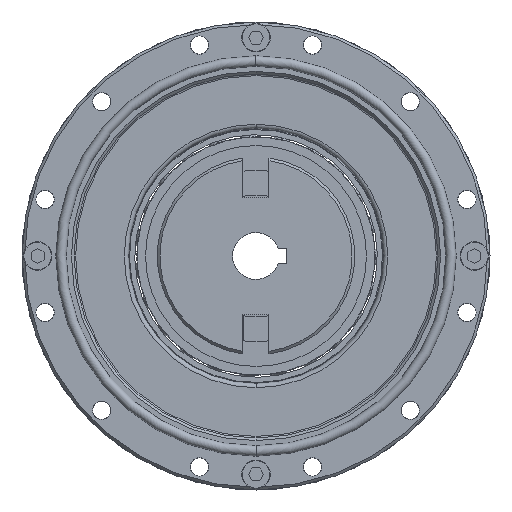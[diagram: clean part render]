
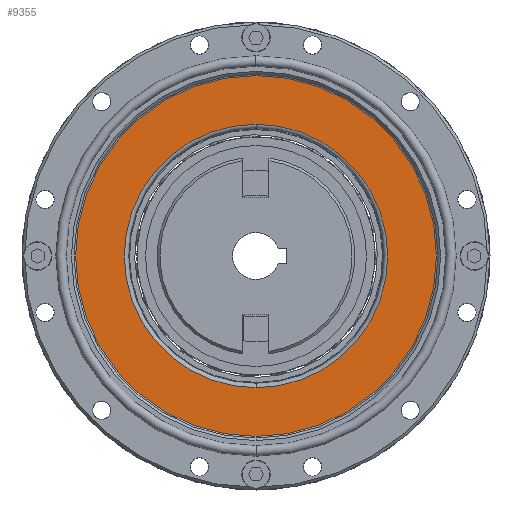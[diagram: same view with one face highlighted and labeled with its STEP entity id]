
A CAD part, left-side view. The second image highlights one B-rep face of the part: STEP entity #9355.
In plain terms, the highlighted planar face has unit normal (-1, 0, 0).
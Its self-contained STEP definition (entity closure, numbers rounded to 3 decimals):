
#1004 = AXIS2_PLACEMENT_3D ( 'NONE', #34702, #10286, #38770 ) ;
#1756 = ORIENTED_EDGE ( 'NONE', *, *, #23890, .F. ) ;
#3246 = VERTEX_POINT ( 'NONE', #14154 ) ;
#3488 = DIRECTION ( 'NONE',  ( 0., 0., -1. ) ) ;
#3552 = EDGE_LOOP ( 'NONE', ( #16050, #37272 ) ) ;
#4136 = AXIS2_PLACEMENT_3D ( 'NONE', #38291, #13903, #42411 ) ;
#4798 = CARTESIAN_POINT ( 'NONE',  ( -30.75, 0., 0. ) ) ;
#5271 = EDGE_CURVE ( 'NONE', #17951, #46394, #24208, .T. ) ;
#5738 = CARTESIAN_POINT ( 'NONE',  ( -30.75, 0., -34.7 ) ) ;
#8850 = DIRECTION ( 'NONE',  ( 0., 0., 1. ) ) ;
#9055 = CIRCLE ( 'NONE', #27177, 25.335 ) ;
#9355 = ADVANCED_FACE ( 'NONE', ( #40351, #51106 ), #24627, .F. ) ;
#10286 = DIRECTION ( 'NONE',  ( -1., 0., 0. ) ) ;
#13903 = DIRECTION ( 'NONE',  ( -1., 0., 0. ) ) ;
#14154 = CARTESIAN_POINT ( 'NONE',  ( -30.75, 0., -25.335 ) ) ;
#15165 = CARTESIAN_POINT ( 'NONE',  ( -30.75, 0., 25.335 ) ) ;
#15639 = CIRCLE ( 'NONE', #1004, 25.335 ) ;
#16050 = ORIENTED_EDGE ( 'NONE', *, *, #5271, .T. ) ;
#17951 = VERTEX_POINT ( 'NONE', #30805 ) ;
#20666 = DIRECTION ( 'NONE',  ( 1., 0., 0. ) ) ;
#20752 = EDGE_CURVE ( 'NONE', #46394, #17951, #48904, .T. ) ;
#23890 = EDGE_CURVE ( 'NONE', #3246, #28463, #9055, .T. ) ;
#24208 = CIRCLE ( 'NONE', #33541, 34.7 ) ;
#24627 = PLANE ( 'NONE',  #42053 ) ;
#27177 = AXIS2_PLACEMENT_3D ( 'NONE', #52160, #27849, #3488 ) ;
#27849 = DIRECTION ( 'NONE',  ( -1., 0., 0. ) ) ;
#28463 = VERTEX_POINT ( 'NONE', #15165 ) ;
#30805 = CARTESIAN_POINT ( 'NONE',  ( -30.75, 0., 34.7 ) ) ;
#33241 = DIRECTION ( 'NONE',  ( -1., 0., 0. ) ) ;
#33541 = AXIS2_PLACEMENT_3D ( 'NONE', #4798, #33241, #8850 ) ;
#34702 = CARTESIAN_POINT ( 'NONE',  ( -30.75, 0., 0. ) ) ;
#35063 = EDGE_LOOP ( 'NONE', ( #1756, #47955 ) ) ;
#36421 = EDGE_CURVE ( 'NONE', #28463, #3246, #15639, .T. ) ;
#37272 = ORIENTED_EDGE ( 'NONE', *, *, #20752, .T. ) ;
#38291 = CARTESIAN_POINT ( 'NONE',  ( -30.75, 0., 0. ) ) ;
#38770 = DIRECTION ( 'NONE',  ( 0., 0., -1. ) ) ;
#40351 = FACE_OUTER_BOUND ( 'NONE', #3552, .T. ) ;
#42053 = AXIS2_PLACEMENT_3D ( 'NONE', #45098, #20666, #49111 ) ;
#42411 = DIRECTION ( 'NONE',  ( 0., 0., 1. ) ) ;
#45098 = CARTESIAN_POINT ( 'NONE',  ( -30.75, -35., 0. ) ) ;
#46394 = VERTEX_POINT ( 'NONE', #5738 ) ;
#47955 = ORIENTED_EDGE ( 'NONE', *, *, #36421, .F. ) ;
#48904 = CIRCLE ( 'NONE', #4136, 34.7 ) ;
#49111 = DIRECTION ( 'NONE',  ( 0., 0., 1. ) ) ;
#51106 = FACE_BOUND ( 'NONE', #35063, .T. ) ;
#52160 = CARTESIAN_POINT ( 'NONE',  ( -30.75, 0., 0. ) ) ;
